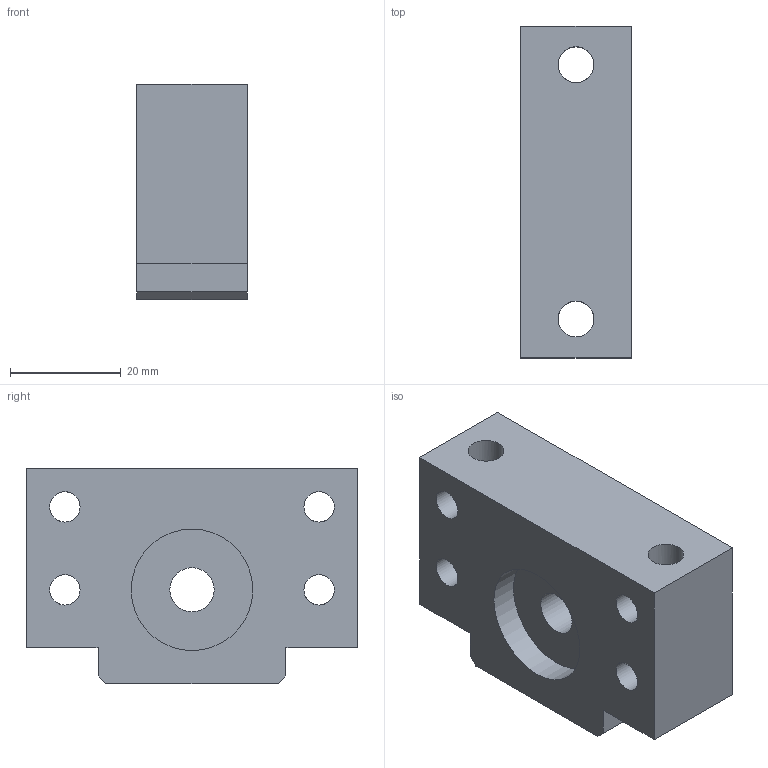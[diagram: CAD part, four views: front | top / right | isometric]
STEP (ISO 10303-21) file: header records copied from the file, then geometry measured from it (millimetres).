
FILE_DESCRIPTION(/* description */ (''),/* implementation_level */ '2;1');
FILE_NAME(/* name */ 'BF10.stp',/* time_stamp */ '2018-11-16T10:45:26+08:00',/* author */ (''),/* organization */ (''),/* preprocessor_version */ 'ST-DEVELOPER v14',/* originating_system */ 'SIEMENS PLM Software NX 8.0',/* authorisation */ '');
FILE_SCHEMA (('AUTOMOTIVE_DESIGN { 1 0 10303 214 3 1 1 1 }'));
Length unit declared in the file: millimetre
Products named in the file (3): 708; BF10-A; BF10
Assembly tree (3 placements, depth 2):
  BF10
    BF10-A  x2
    708
Bounding box: 20 x 60 x 39 mm (x, y, z)
Surface area: 23015.4 mm2
Topology: 3 solids, 3 shells, 58 faces, 178 edges, 122 vertices
Faces by surface type: plane 30, cylinder 28
Full cylindrical faces by diameter (mm): 5.5 x16, 6.5 x4, 8 x1, 11 x4, 22 x3
Entity records: 1520 total; most frequent: CARTESIAN_POINT 721, DIRECTION 144, ORIENTED_EDGE 120, EDGE_LOOP 72, FACE_BOUND 65, EDGE_CURVE 60, AXIS2_PLACEMENT_3D 57, VERTEX_POINT 50
